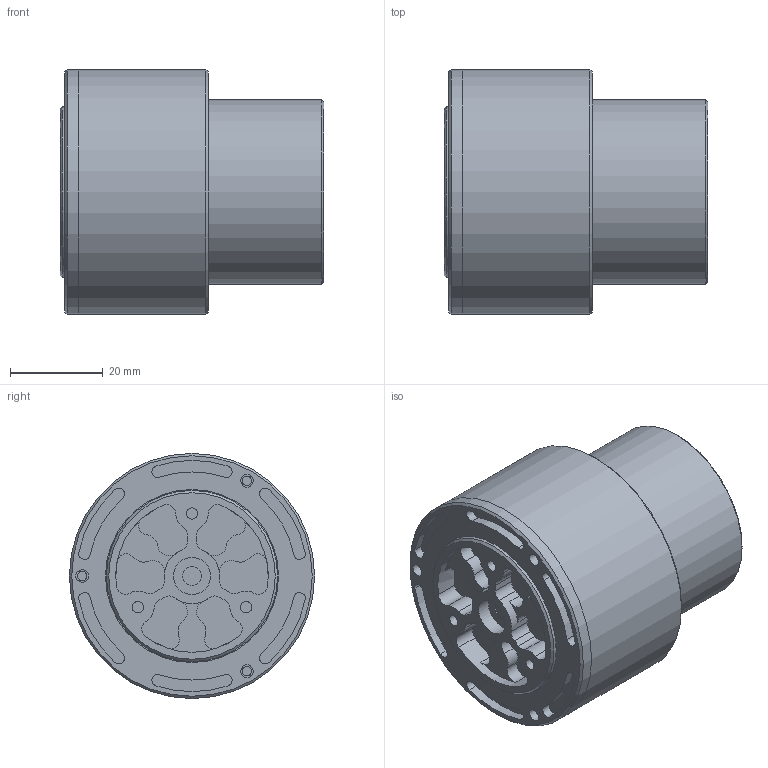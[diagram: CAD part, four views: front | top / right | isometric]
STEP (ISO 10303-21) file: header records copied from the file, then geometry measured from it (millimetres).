
FILE_DESCRIPTION(/* description */ (''),/* implementation_level */ '2;1');
FILE_NAME(/* name */ 'E:\登矩电机\2-项目\1.电机-CNC\G43\安装图\4310-36刹车安装图.stp',/* time_stamp */ '2023-07-03T14:52:56+08:00',/* author */ ('chao'),/* organization */ (''),/* preprocessor_version */ 'ST-DEVELOPER v18',/* originating_system */ 'Autodesk Inventor 2020',/* authorisation */ '');
FILE_SCHEMA (('CONFIG_CONTROL_DESIGN'));
Length unit declared in the file: millimetre
Products named in the file (1): X4刹车外形3D
Bounding box: 57 x 53 x 53 mm (x, y, z)
Volume: 97344.3 mm3; surface area: 17646.4 mm2
Topology: 2 solids, 2 shells, 149 faces, 391 edges, 276 vertices
Faces by surface type: cylinder 99, plane 46, cone 4
Full cylindrical faces by diameter (mm): 2.013 x12, 2.459 x3, 2.7 x3, 4 x1, 8 x1, 37 x1, 37.4 x1, 40 x1, 44 x2, 53 x2
Entity records: 4873 total; most frequent: DIRECTION 955, CARTESIAN_POINT 817, ORIENTED_EDGE 782, AXIS2_PLACEMENT_3D 414, EDGE_CURVE 391, VERTEX_POINT 276, CIRCLE 264, EDGE_LOOP 187
